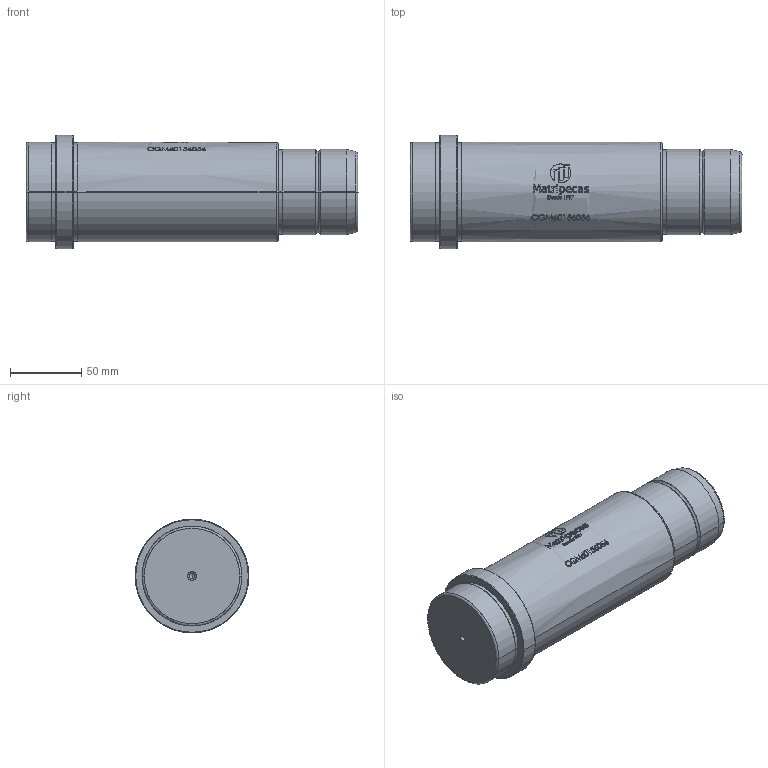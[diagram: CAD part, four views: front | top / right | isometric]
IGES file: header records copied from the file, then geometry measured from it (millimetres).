
Start section: SolidWorks IGES file using analytic representation for surfaces
Global section: file name: E:\1.TRIVECTOR\Clientes\MATRIPEÇAS\PEÇAS_CATALOGO_SITE\6.CGM - COLUNA PRINCIPAL TIPO GUIA (CATÁLOGO)\CGM60156056.IGS; native system: SolidWorks 2024; preprocessor: SolidWorks 2024; author: Gabriel Techio; date: 260914.164733; units: millimetre
Bounding box: 233 x 80 x 80 mm (x, y, z)
Surface area: 60130.1 mm2 (no closed solid volume)
Topology: 0 solids, 0 shells, 491 faces, 6772 edges, 6768 vertices
Faces by surface type: bspline 409, revolution 82
